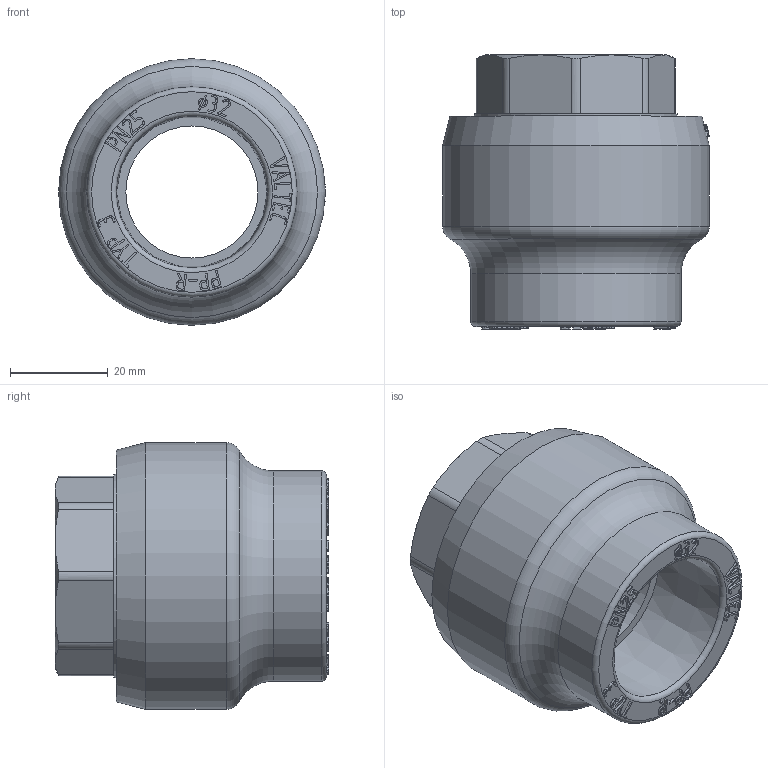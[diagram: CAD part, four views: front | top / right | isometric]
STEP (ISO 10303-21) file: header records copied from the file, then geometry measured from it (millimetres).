
FILE_DESCRIPTION(('STEP AP203'), '1');
FILE_NAME('ÂÐ.753153.015 - VTp.706.0.03206', '', ('UNSPECIFIED'), ('UNSPECIFIED'), 'C3D Converter', 'C3D Toolkit', '');
FILE_SCHEMA(('CONFIG_CONTROL_DESIGN'));
Length unit declared in the file: millimetre
Products named in the file (4): ВР.753153.015; ВР.302639.017.000; ВР.753154.018
Assembly tree (3 placements, depth 3):
  ВР.753153.015
    ВР.302639.017.000
      ВР.753154.018
      (unnamed)
Bounding box: 54.54 x 56 x 54.5 mm (x, y, z)
Volume: 62925.1 mm3; surface area: 33992.9 mm2
Topology: 3 solids, 3 shells, 805 faces, 2225 edges, 1480 vertices
Faces by surface type: extrusion 421, plane 329, cylinder 33, cone 17, torus 5
Full cylindrical faces by diameter (mm): 27 x1, 30.292 x1, 36 x2, 40 x8, 41.5 x1, 43 x1, 46 x10, 54.5 x1
Entity records: 28623 total; most frequent: CARTESIAN_POINT 9679, ORIENTED_EDGE 4372, DIRECTION 2589, EDGE_CURVE 2186, VECTOR 1537, VERTEX_POINT 1473, B_SPLINE_CURVE_WITH_KNOTS 1358, LINE 1116
